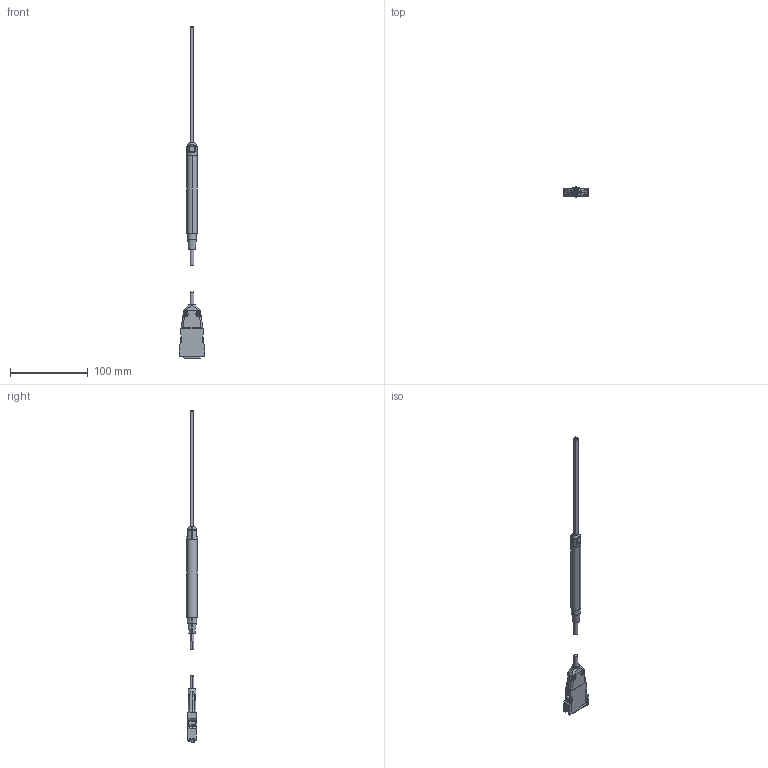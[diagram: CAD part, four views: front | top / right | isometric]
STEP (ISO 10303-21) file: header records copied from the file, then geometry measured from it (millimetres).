
FILE_DESCRIPTION (( 'STEP AP203' ), '1' );
FILE_NAME ('FP-2X-250-ZS15.STEP', '2018-05-10T20:56:47', ( '' ), ( '' ), 'SwSTEP 2.0', 'SolidWorks 2017', '' );
FILE_SCHEMA (( 'CONFIG_CONTROL_DESIGN' ));
Length unit declared in the file: millimetre
Products named in the file (1): FP-2X-250-ZS15
Bounding box: 33.27 x 13 x 427.39 mm (x, y, z)
Volume: 37047.9 mm3; surface area: 17153.8 mm2
Topology: 2 solids, 2 shells, 877 faces, 2431 edges, 1566 vertices
Faces by surface type: plane 582, cylinder 141, cone 64, bspline 60, torus 22, sphere 8
Entity records: 29964 total; most frequent: CARTESIAN_POINT 7996, ORIENTED_EDGE 4854, DIRECTION 4199, EDGE_CURVE 2427, LINE 1741, VECTOR 1741, VERTEX_POINT 1566, AXIS2_PLACEMENT_3D 1229
